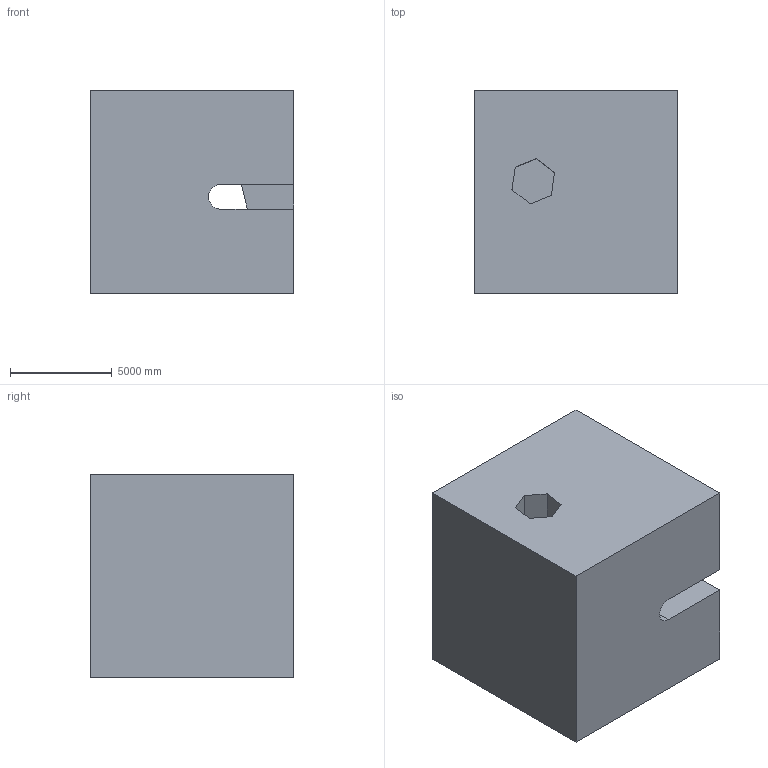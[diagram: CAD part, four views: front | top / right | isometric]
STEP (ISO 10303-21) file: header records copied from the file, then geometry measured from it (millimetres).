
FILE_DESCRIPTION (( 'STEP AP203' ), '1' );
FILE_NAME ('259.STEP', '2022-07-28T14:07:47', ( 'user' ), ( '' ), 'SwSTEP 2.0', 'SolidWorks 2021', '' );
FILE_SCHEMA (( 'CONFIG_CONTROL_DESIGN' ));
Length unit declared in the file: centimetre
Products named in the file (1): 259
Bounding box: 10000 x 10000 x 10000 mm (x, y, z)
Volume: 895997008863.3 mm3; surface area: 773329904.2 mm2
Topology: 1 solids, 1 shells, 21 faces, 63 edges, 42 vertices
Faces by surface type: plane 20, cylinder 1
Entity records: 784 total; most frequent: CARTESIAN_POINT 127, ORIENTED_EDGE 126, DIRECTION 109, EDGE_CURVE 63, VECTOR 61, LINE 61, VERTEX_POINT 42, AXIS2_PLACEMENT_3D 24
